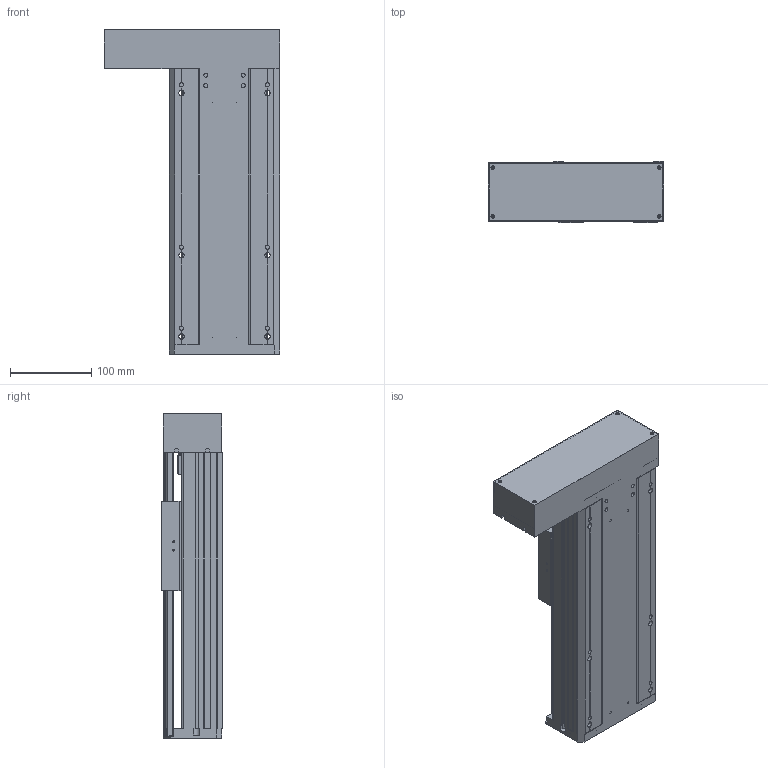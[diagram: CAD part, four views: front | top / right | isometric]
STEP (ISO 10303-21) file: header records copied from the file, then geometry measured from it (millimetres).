
FILE_DESCRIPTION(/* description */ (''),/* implementation_level */ '2;1');
FILE_NAME(/* name */ 'TKA136-FL-150_asm1.stp',/* time_stamp */ '2016-05-07T11:04:41+08:00',/* author */ (''),/* organization */ (''),/* preprocessor_version */ 'ST-DEVELOPER v15',/* originating_system */ 'SIEMENS PLM Software NX 8.5',/* authorisation */ '');
FILE_SCHEMA (('AUTOMOTIVE_DESIGN { 1 0 10303 214 3 1 1 1 }'));
Length unit declared in the file: millimetre
Products named in the file (3): 100-02; 100-01; TKA136-FL-150_asm1
Assembly tree (2 placements, depth 2):
  TKA136-FL-150_asm1
    100-01
    100-02
Bounding box: 216 x 75 x 400 mm (x, y, z)
Volume: 1474296.1 mm3; surface area: 584873.2 mm2
Topology: 2 solids, 12 shells, 854 faces, 2356 edges, 1537 vertices
Faces by surface type: plane 417, cylinder 386, cone 51
Full cylindrical faces by diameter (mm): 2.5 x14, 3 x2, 3.3 x13, 4 x4, 4.2 x6, 4.5 x24, 5 x14, 5.5 x26, 6.6 x10, 8 x20, 10 x9, 10.5 x6, 11 x4, 11.6 x1, 12 x9, 15 x3, 16 x5, 17 x1, 24 x5, 26 x1, 28 x1, 46 x1, 50 x1
Entity records: 27984 total; most frequent: CARTESIAN_POINT 7158, DIRECTION 4338, ORIENTED_EDGE 4002, EDGE_CURVE 2001, AXIS2_PLACEMENT_3D 1635, VERTEX_POINT 1432, EDGE_LOOP 1268, LINE 1068
